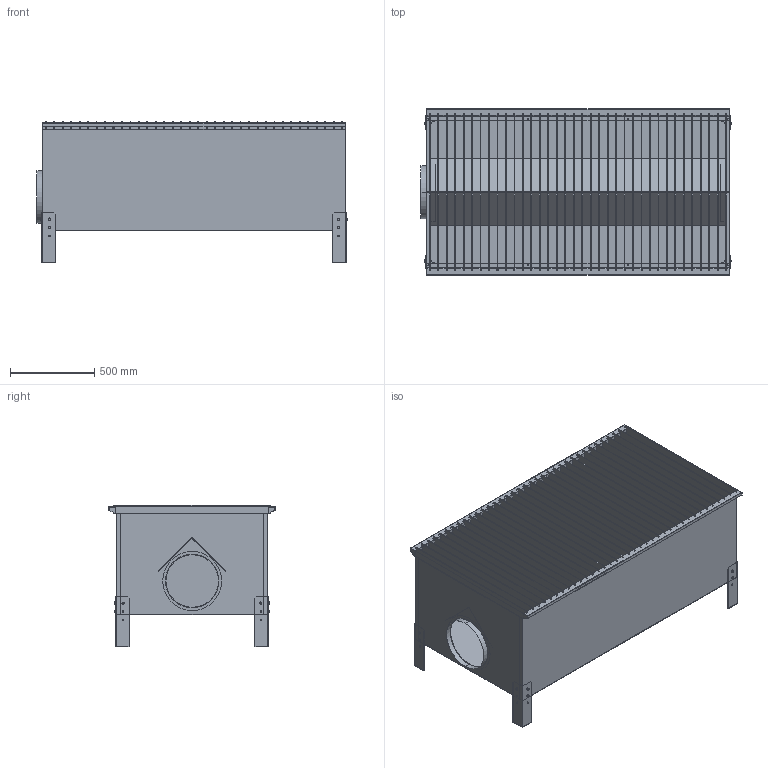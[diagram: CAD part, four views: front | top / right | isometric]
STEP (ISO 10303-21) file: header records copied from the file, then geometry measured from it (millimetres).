
FILE_DESCRIPTION(('STEP AP214'),'1');
FILE_NAME('02-005 svejsebord 1800x1000x800mm.stp','2017-01-18T10:29:03',(' '),(' '),'Spatial InterOp 3D',' ',' ');
FILE_SCHEMA(('automotive_design'));
Length unit declared in the file: metre
Products named in the file (15): ID_1-1; ID_1; ID_7; 02-005 svejsebord 1800x1000x800mm; ID_1-0; ID_1-2; ID_2; ID_3; ID_4; ID_5; ID_1-3; ID_6; ID_8; ID_1-4; ID_9
Assembly tree (66 placements, depth 3):
  02-005 svejsebord 1800x1000x800mm
    ID_1-1
      ID_1  x2
      ID_7  x2
    ID_1-0
    ID_1-2
    ID_2
    ID_3
    ID_4
    ID_5  x4
    ID_1-3
    ID_6  x12
    ID_8  x36
    ID_1-4  x2
    ID_9
Bounding box: 1842.15 x 989.5 x 843.5 mm (x, y, z)
Volume: 17264145.5 mm3; surface area: 17733191.7 mm2
Topology: 65 solids, 65 shells, 2335 faces, 6800 edges, 4476 vertices
Faces by surface type: plane 1185, cylinder 1078, cone 36, bspline 32, torus 4
Entity records: 53477 total; most frequent: CARTESIAN_POINT 20239, ORIENTED_EDGE 5416, DIRECTION 5337, EDGE_CURVE 2708, LINE 1807, VECTOR 1807, VERTEX_POINT 1774, AXIS2_PLACEMENT_3D 1765
